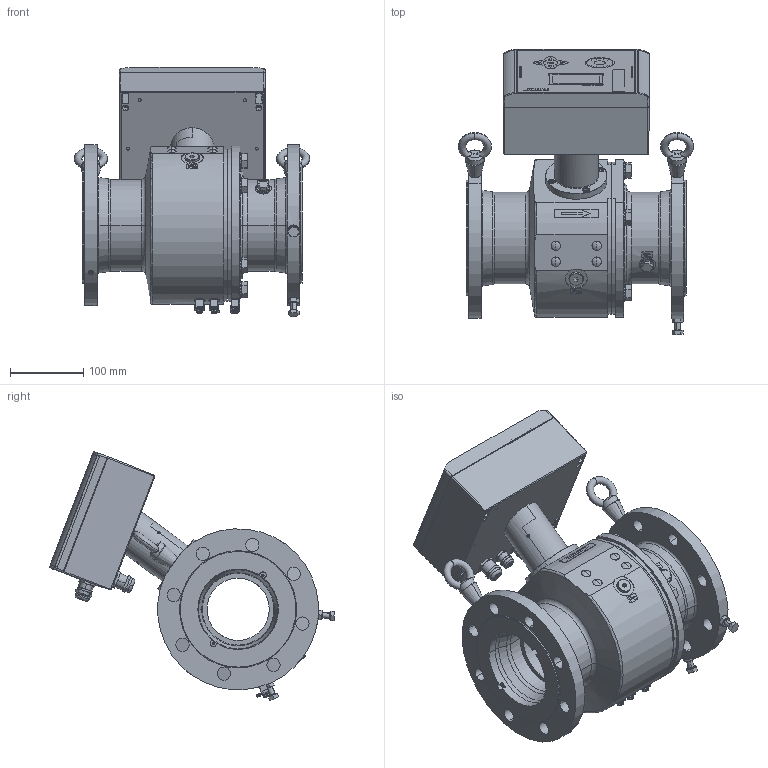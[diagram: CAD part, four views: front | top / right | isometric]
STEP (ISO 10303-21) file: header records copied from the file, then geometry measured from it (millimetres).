
FILE_DESCRIPTION((''),'2;1');
FILE_NAME('STANDARD_SW0001_PN10_RE','2023-09-11T07:38:04',('R85801'),(''),'CREO PARAMETRIC BY PTC INC, 2022281','CREO PARAMETRIC BY PTC INC, 2022281','');
FILE_SCHEMA(('AP242_MANAGED_MODEL_BASED_3D_ENGINEERING_MIM_LF { 1 0 10303 442 1 1 4 }'));
Products named in the file (2): STANDARD_SW0001_PN10_RE; 10038_S235JRG2
Bounding box: 321.27 x 389.86 x 340.23 mm (x, y, z)
Volume: 5371460.7 mm3; surface area: 874330.9 mm2
Topology: 12 solids, 22 shells, 3930 faces, 9920 edges, 6303 vertices
Faces by surface type: plane 1883, cylinder 690, extrusion 632, cone 376, torus 279, sphere 40, bspline 30
Entity records: 187296 total; most frequent: CARTESIAN_POINT 30397, ORIENTED_EDGE 19720, DIRECTION 17948, PRESENTATION_STYLE_ASSIGNMENT 14329, STYLED_ITEM 10509, CURVE_STYLE 10496, EDGE_CURVE 9860, VECTOR 6510
